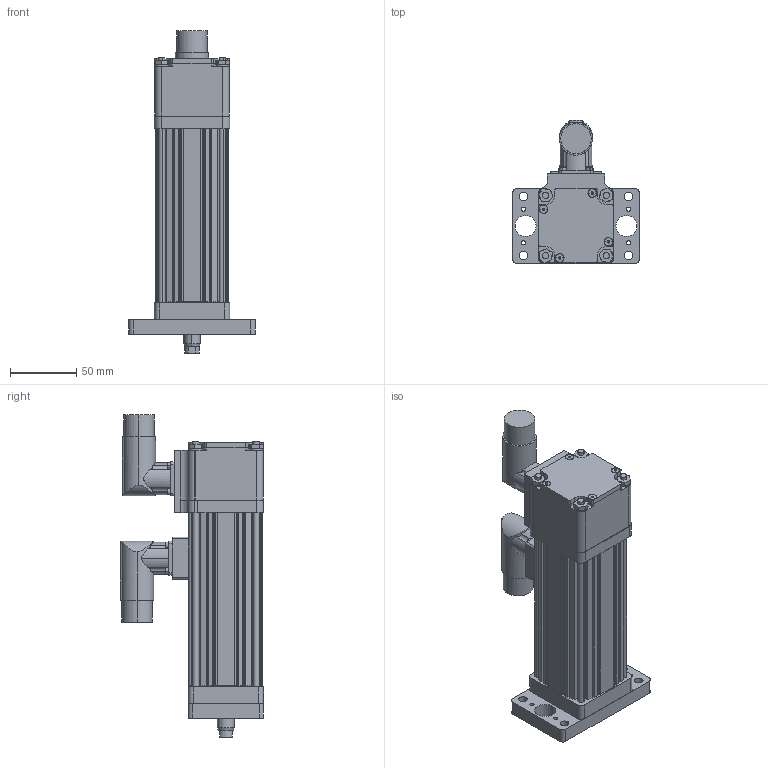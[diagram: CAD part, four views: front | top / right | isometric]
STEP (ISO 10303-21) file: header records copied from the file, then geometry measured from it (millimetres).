
FILE_DESCRIPTION (( 'STEP AP203' ), '1' );
FILE_NAME ('GSM20-3 inch Front Flange Mount, Euro Conn, B Rod.step', '2008-05-29T11:28:22', ( 'SaharaKiran' ), ( 'I2T2' ), 'SwSTEP 2.0', 'SolidWorks 2008', '' );
FILE_SCHEMA (( 'CONFIG_CONTROL_DESIGN' ));
Length unit declared in the file: inch
Products named in the file (19): CYLINDER_31367-3 inch; GSM20-3 inch Front Flange Mount, Euro Conn, B Rod; CASE_31193-3 inch; 19819; 18391; END CAP_31199; END CAP_FRONT FLANGE-31199-EURO; 31335; 20494; 31527_90585A200; 12709; 12367; FRONT FLANGE_12868; TieRod_24874-3"; 12710; 31603; MAIN ROD_B-MAIN ROD-3 inch; 19738; 12692
Assembly tree (38 placements, depth 3):
  GSM20-3 inch Front Flange Mount, Euro Conn, B Rod
    TieRod_24874-3"  x4
    19738
    31603
    12709  x4
    12367  x4
    FRONT FLANGE_12868
    12692  x2
    12710  x4
    19819
    MAIN ROD_B-MAIN ROD-3 inch
    CYLINDER_31367-3 inch
    18391
    END CAP_FRONT FLANGE-31199-EURO
      12367  x4
      31527_90585A200  x4
      31335
      END CAP_31199
      20494
    CASE_31193-3 inch
Bounding box: 95.25 x 108.01 x 243.43 mm (x, y, z)
Volume: 458800.7 mm3; surface area: 205459.1 mm2
Topology: 37 solids, 37 shells, 1438 faces, 3371 edges, 2061 vertices
Faces by surface type: cylinder 656, plane 418, cone 310, torus 54
Entity records: 32509 total; most frequent: CARTESIAN_POINT 6858, DIRECTION 5184, ORIENTED_EDGE 4542, EDGE_CURVE 2271, AXIS2_PLACEMENT_3D 2069, VERTEX_POINT 1454, EDGE_LOOP 1153, CIRCLE 1085
